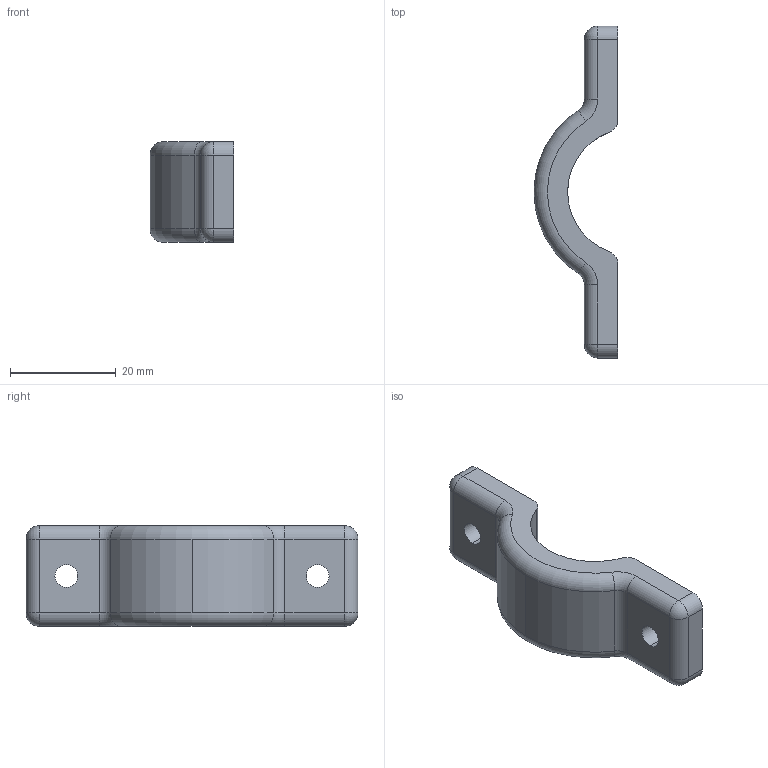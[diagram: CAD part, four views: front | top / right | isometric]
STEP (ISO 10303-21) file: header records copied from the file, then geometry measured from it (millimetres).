
FILE_DESCRIPTION (( 'STEP AP214' ), '1' );
FILE_NAME ('C Clamp.STEP', '2022-07-18T01:56:56', ( '' ), ( '' ), 'SwSTEP 2.0', 'SolidWorks 2021', '' );
FILE_SCHEMA (( 'AUTOMOTIVE_DESIGN' ));
Length unit declared in the file: inch
Products named in the file (1): C Clamp
Bounding box: 15.88 x 62.73 x 19.05 mm (x, y, z)
Volume: 8087.6 mm3; surface area: 3691.9 mm2
Topology: 1 solids, 1 shells, 40 faces, 98 edges, 56 vertices
Faces by surface type: cylinder 22, plane 8, torus 6, sphere 4
Entity records: 1200 total; most frequent: DIRECTION 230, CARTESIAN_POINT 191, ORIENTED_EDGE 188, AXIS2_PLACEMENT_3D 95, EDGE_CURVE 94, VERTEX_POINT 56, CIRCLE 54, EDGE_LOOP 44
